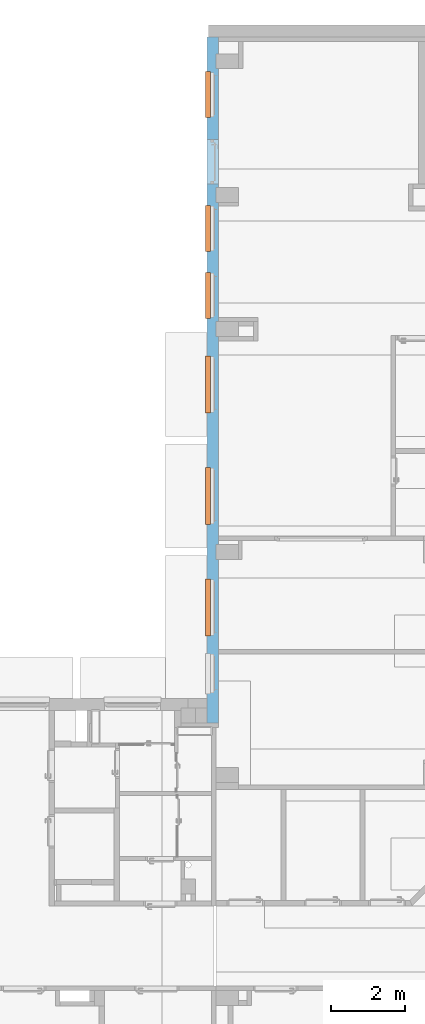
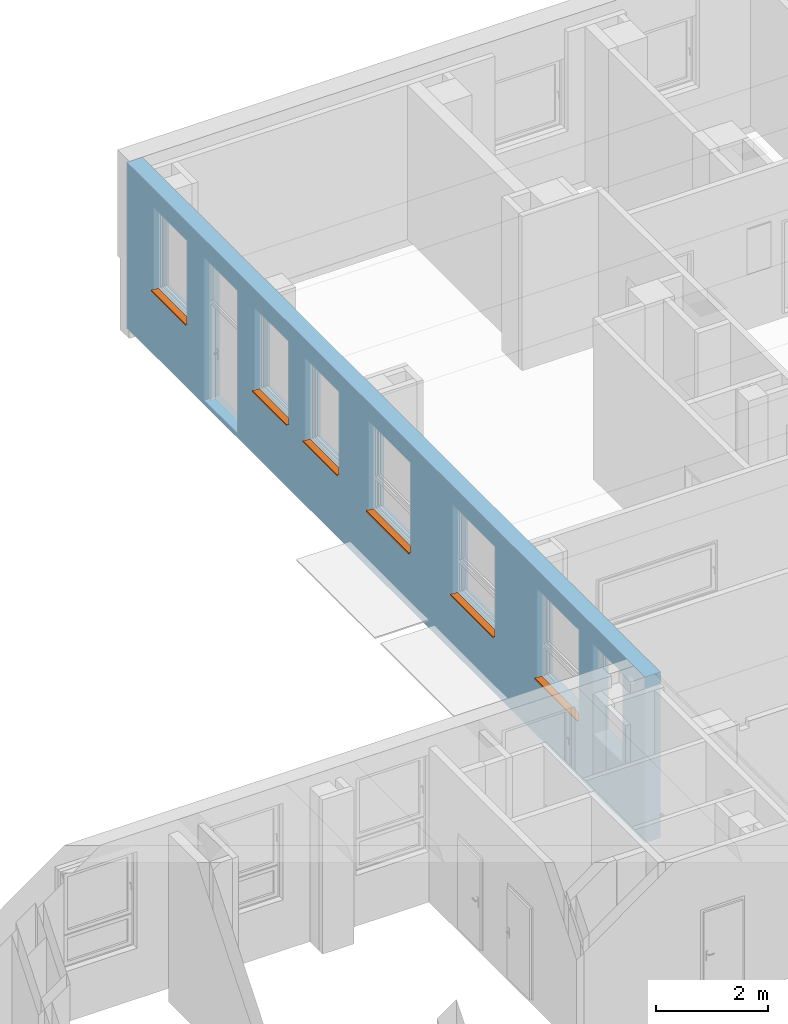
# One storey, part 92 of 140: 6 proxies, 9 openings, plus 1 element that does not belong to this part.
"""IFC4 building model written with IfcOpenShell, lengths in metres."""

import ifcopenshell
import ifcopenshell.guid

model = None  # the IFC model being written
_history = None  # IfcOwnerHistory: only IFC2X3 demands one
_inside = {}  # id of a spatial element -> (the spatial element, [elements in it])
_under = {}  # id of a project, library or spatial element -> (it, [spatial elements below it])
_declared = {}  # id of a project -> (the project, [libraries it declares])
_typed = {}  # id of a type object -> (the type object, [elements of that type])
_made_of = {}  # id of a material, layer set ... -> (it, [elements and type objects made of it])


def new_model(schema):
    """Start an empty IFC model of exactly this schema.

    Asked for "IFC4X3", IfcOpenShell would pick the latest addendum, in which some entities
    have other attributes; the version numbers below select the first issue.
    IFC2X3 requires an IfcOwnerHistory on every rooted entity: one is made here for all.
    """
    global model, _history
    if schema == "IFC4X3":
        model = ifcopenshell.file(schema_version=(4, 3, 0, 0))
    else:
        model = ifcopenshell.file(schema=schema)
    _inside.clear()
    _under.clear()
    _declared.clear()
    _typed.clear()
    _made_of.clear()
    _history = None
    if model.schema == "IFC2X3":
        org = make("IfcOrganization", Name="unknown")
        user = make(
            "IfcPersonAndOrganization",
            ThePerson=make("IfcPerson", FamilyName="unknown"),
            TheOrganization=org,
        )
        app = make(
            "IfcApplication",
            ApplicationDeveloper=org,
            Version="unknown",
            ApplicationFullName="unknown",
            ApplicationIdentifier="unknown",
        )
        _history = make(
            "IfcOwnerHistory",
            OwningUser=user,
            OwningApplication=app,
            ChangeAction="ADDED",
            CreationDate=0,
        )
    return model


def make(cls, **values):
    """One entity of the class cls with the attributes given. An attribute that is None is left unset."""
    return model.create_entity(
        cls, **{name: value for name, value in values.items() if value is not None}
    )


def entity(cls, *values):
    """Any entity or typed value of the class cls, its attributes in the order of the schema. None: left unset."""
    e = model.create_entity(cls)
    for i, value in enumerate(values):
        if value is not None:
            e[i] = value
    return e


def rooted(cls, **values):
    """An entity with a GlobalId (a new one), such as an element, a storey or a relation."""
    return make(cls, GlobalId=ifcopenshell.guid.new(), OwnerHistory=_history, **values)


def si_unit(unit_type, name, prefix=None):
    """IfcSIUnit, for example si_unit("LENGTHUNIT", "METRE", prefix="MILLI")."""
    return make("IfcSIUnit", UnitType=unit_type, Prefix=prefix, Name=name)


def converted_unit(unit_type, name, factor, base, dimensions=None, offset=None):
    """IfcConversionBasedUnit, such as the inch: factor (a typed value) times the base unit."""
    return make(
        "IfcConversionBasedUnit"
        if offset is None
        else "IfcConversionBasedUnitWithOffset",
        ConversionOffset=offset,
        Dimensions=None
        if dimensions is None
        else entity("IfcDimensionalExponents", *dimensions),
        UnitType=unit_type,
        Name=name,
        ConversionFactor=make(
            "IfcMeasureWithUnit", ValueComponent=factor, UnitComponent=base
        ),
    )


def derived_unit(unit_type, elements):
    """IfcDerivedUnit: a product of units, each with its exponent."""
    return make(
        "IfcDerivedUnit",
        Elements=[
            make("IfcDerivedUnitElement", Unit=unit, Exponent=power)
            for unit, power in elements
        ],
        UnitType=unit_type,
    )


def assignment(units):
    """IfcUnitAssignment: the units of a project."""
    return None if units is None else make("IfcUnitAssignment", Units=units)


def point(xyz):
    """IfcCartesianPoint."""
    return None if xyz is None else make("IfcCartesianPoint", Coordinates=xyz)


def direction(xyz):
    """IfcDirection."""
    return None if xyz is None else make("IfcDirection", DirectionRatios=xyz)


def frame(location, z_axis=None, x_axis=None):
    """IfcAxis2Placement3D, a coordinate frame: its origin and axes. An axis left out is left unset."""
    return make(
        "IfcAxis2Placement3D",
        Location=point(location),
        Axis=direction(z_axis),
        RefDirection=direction(x_axis),
    )


def frame_2d(location, x_axis=None):
    """IfcAxis2Placement2D, a coordinate frame in the plane: its origin and x axis."""
    return make(
        "IfcAxis2Placement2D", Location=point(location), RefDirection=direction(x_axis)
    )


def origin():
    """The frame at (0, 0, 0) with its axes left unset."""
    return frame((0.0, 0.0, 0.0))


def origin_with_axes():
    """The frame at (0, 0, 0) with the z axis (0, 0, 1) and the x axis (1, 0, 0) written out."""
    return frame((0.0, 0.0, 0.0), z_axis=(0.0, 0.0, 1.0), x_axis=(1.0, 0.0, 0.0))


def place(relative_to, where):
    """IfcLocalPlacement: puts the frame where relative to a parent placement (None: the world)."""
    return make(
        "IfcLocalPlacement", PlacementRelTo=relative_to, RelativePlacement=where
    )


def context(
    kind, dimensions, precision=None, world=None, true_north=None, identifier=None
):
    """IfcGeometricRepresentationContext, for example the 3D "Model" context."""
    return make(
        "IfcGeometricRepresentationContext",
        ContextIdentifier=identifier,
        ContextType=kind,
        CoordinateSpaceDimension=dimensions,
        Precision=precision,
        WorldCoordinateSystem=world,
        TrueNorth=true_north,
    )


def subcontext(parent, identifier, kind, view, scale=None):
    """IfcGeometricRepresentationSubContext, for example "Body" below "Model"."""
    return make(
        "IfcGeometricRepresentationSubContext",
        ContextIdentifier=identifier,
        ContextType=kind,
        ParentContext=parent,
        TargetScale=scale,
        TargetView=view,
    )


def project(units=None, contexts=None):
    """IfcProject with its units and contexts."""
    return rooted(
        "IfcProject",
        Name="project",
        RepresentationContexts=contexts,
        UnitsInContext=assignment(units),
    )


def spatial(cls, under=None, at=None, **own):
    """A site, building, storey or space (cls), placed at a placement, below another one or the project."""
    s = rooted(cls, ObjectPlacement=at, **own)
    if under is not None:
        _under.setdefault(under.id(), (under, []))[1].append(s)
    return s


def polyline(points):
    """IfcPolyline through the points."""
    return make("IfcPolyline", Points=[point(p) for p in points])


def profile(cls, at=None, kind="AREA", **sizes):
    """A parametric profile (cls). Its sizes go by their IFC names, for example OverallWidth=200.0."""
    return make(cls, ProfileType=kind, Position=at, **sizes)


def rectangle(**sizes):
    """IfcRectangleProfileDef."""
    return profile("IfcRectangleProfileDef", **sizes)


def outline(outer, holes=None, kind="AREA"):
    """IfcArbitraryClosedProfileDef: a profile drawn as a closed curve; with holes, ...WithVoids."""
    if holes is None:
        return make("IfcArbitraryClosedProfileDef", ProfileType=kind, OuterCurve=outer)
    return make(
        "IfcArbitraryProfileDefWithVoids",
        ProfileType=kind,
        OuterCurve=outer,
        InnerCurves=holes,
    )


def extrude(swept, where, along, depth):
    """IfcExtrudedAreaSolid: the profile swept, set in the frame where, extruded along a direction by depth."""
    return make(
        "IfcExtrudedAreaSolid",
        SweptArea=swept,
        Position=where,
        ExtrudedDirection=direction(along),
        Depth=depth,
    )


def clip(a, b, op="DIFFERENCE"):
    """IfcBooleanClippingResult: the solid a cut by the half space b."""
    return make(
        "IfcBooleanClippingResult", Operator=op, FirstOperand=a, SecondOperand=b
    )


def bounded_halfspace(plane, agree, where, boundary):
    """IfcPolygonalBoundedHalfSpace: a half space limited to a polygon's prism."""
    return make(
        "IfcPolygonalBoundedHalfSpace",
        BaseSurface=make("IfcPlane", Position=plane),
        AgreementFlag=agree,
        Position=where,
        PolygonalBoundary=boundary,
    )


def faces_of(points, faces, orient=None, outer=None):
    """IfcFace entities. A face is a list of loops; a loop is a list of indices into points, from 0.

    orient and outer hold one flag for each loop. By default every Orientation is true, the
    first loop of a face is its IfcFaceOuterBound and the others are IfcFaceBound.
    """
    made = []
    for i, loops in enumerate(faces):
        bounds = []
        for j, loop in enumerate(loops):
            is_outer = j == 0 if outer is None else outer[i][j]
            bounds.append(
                make(
                    "IfcFaceOuterBound" if is_outer else "IfcFaceBound",
                    Bound=make("IfcPolyLoop", Polygon=[points[k] for k in loop]),
                    Orientation=True if orient is None else orient[i][j],
                )
            )
        made.append(make("IfcFace", Bounds=bounds))
    return made


def faceted_brep(points, faces, orient=None, outer=None, voids=None):
    """IfcFacetedBrep: a solid bounded by flat faces; with voids (closed shells), ...WithVoids."""
    shared = [point(p) for p in points]
    hull = make("IfcClosedShell", CfsFaces=faces_of(shared, faces, orient, outer))
    if voids is None:
        return make("IfcFacetedBrep", Outer=hull)
    return make(
        "IfcFacetedBrepWithVoids",
        Outer=hull,
        Voids=[
            make(cls, CfsFaces=faces_of(shared, fs, o, b)) for cls, fs, o, b in voids
        ],
    )


def shape(context_of_items, identifier, shape_type, items):
    """IfcShapeRepresentation: the items that make up one representation, for example the "Body"."""
    return make(
        "IfcShapeRepresentation",
        ContextOfItems=context_of_items,
        RepresentationIdentifier=identifier,
        RepresentationType=shape_type,
        Items=items,
    )


def source(mapping_origin, context_of_items, identifier, shape_type, items):
    """IfcRepresentationMap: a shape defined once, which mapped items show again and again."""
    return make(
        "IfcRepresentationMap",
        MappingOrigin=mapping_origin,
        MappedRepresentation=shape(context_of_items, identifier, shape_type, items),
    )


def transform(
    local_origin,
    x_axis=None,
    y_axis=None,
    z_axis=None,
    scale=None,
    scale2=None,
    scale3=None,
    uniform=True,
):
    """IfcCartesianTransformationOperator3D, or its non-uniform kind. x_axis, y_axis, z_axis: its Axis1, 2, 3."""
    if uniform:
        return make(
            "IfcCartesianTransformationOperator3D",
            Axis1=direction(x_axis),
            Axis2=direction(y_axis),
            LocalOrigin=point(local_origin),
            Scale=scale,
            Axis3=direction(z_axis),
        )
    return make(
        "IfcCartesianTransformationOperator3DnonUniform",
        Axis1=direction(x_axis),
        Axis2=direction(y_axis),
        LocalOrigin=point(local_origin),
        Scale=scale,
        Axis3=direction(z_axis),
        Scale2=scale2,
        Scale3=scale3,
    )


def mapped(mapping_source, mapping_target):
    """IfcMappedItem: shows the shape of a source again, moved by a transform."""
    return make(
        "IfcMappedItem", MappingSource=mapping_source, MappingTarget=mapping_target
    )


def material(Name=None, Category=None):
    """IfcMaterial."""
    return make("IfcMaterial", Name=Name, Category=Category)


def layer(
    of_material, thickness, ventilated=None, Name=None, Category=None, Priority=None
):
    """IfcMaterialLayer: one layer of a wall or slab, of a material (None: an air gap)."""
    return make(
        "IfcMaterialLayer",
        Material=of_material,
        LayerThickness=thickness,
        IsVentilated=ventilated,
        Name=Name,
        Category=Category,
        Priority=Priority,
    )


def layer_set(layers, Name=None):
    """IfcMaterialLayerSet."""
    return make("IfcMaterialLayerSet", MaterialLayers=layers, LayerSetName=Name)


def layer_usage(for_layer_set, set_direction, sense, offset, extent=None):
    """IfcMaterialLayerSetUsage: how a layer set lies in its element."""
    return make(
        "IfcMaterialLayerSetUsage",
        ForLayerSet=for_layer_set,
        LayerSetDirection=set_direction,
        DirectionSense=sense,
        OffsetFromReferenceLine=offset,
        ReferenceExtent=extent,
    )


def made_of(thing, what):
    """Note that an element or type object is made of a material, layer set ...; save() writes the relation."""
    if what is not None:
        _made_of.setdefault(what.id(), (what, []))[1].append(thing)
    return thing


def element(
    cls,
    number,
    at=None,
    inside=None,
    cuts=None,
    type_object=None,
    material=None,
    context=None,
    identifier="Body",
    shape_type=None,
    held_by="IfcProductDefinitionShape",
    body=None,
    shapes=None,
    **own,
):
    """One element of the class cls, such as IfcWall. Its Tag is "e" and its number.

    at: its placement. inside: the storey or other place that contains it. cuts: it is an
    opening in that element (IfcRelVoidsElement). A single representation is given by context,
    identifier, shape_type and body (its items); several are given by shapes. held_by: the class
    of the entity that holds the representations. save() writes the other relations.
    """
    e = rooted(cls, Tag="e%d" % number, ObjectPlacement=at, **own)
    if body is not None:
        shapes = [shape(context, identifier, shape_type, body)]
    if shapes is not None:
        e.Representation = make(held_by, Representations=shapes)
    if inside is not None:
        _inside.setdefault(inside.id(), (inside, []))[1].append(e)
    if cuts is not None:
        rooted(
            "IfcRelVoidsElement", RelatingBuildingElement=cuts, RelatedOpeningElement=e
        )
    if type_object is not None:
        _typed.setdefault(type_object.id(), (type_object, []))[1].append(e)
    return made_of(e, material)


def fill(opening, filler):
    """IfcRelFillsElement: the door or window that sits in an opening."""
    return rooted(
        "IfcRelFillsElement",
        RelatingOpeningElement=opening,
        RelatedBuildingElement=filler,
    )


def aggregate(whole, parts):
    """IfcRelAggregates: a whole, such as a stair, and the parts it consists of."""
    return rooted("IfcRelAggregates", RelatingObject=whole, RelatedObjects=parts)


def save(model, path):
    """Write the relations noted so far, then the file.

    IfcRelAggregates (storeys below a building ...), IfcRelContainedInSpatialStructure (elements
    in a storey), IfcRelDefinesByType, IfcRelAssociatesMaterial and IfcRelDeclares: one each for
    every whole, place, type object, material and project.
    """
    for whole, parts in _under.values():
        aggregate(whole, parts)
    for where, things in _inside.values():
        rooted(
            "IfcRelContainedInSpatialStructure",
            RelatedElements=things,
            RelatingStructure=where,
        )
    for kind, things in _typed.values():
        rooted("IfcRelDefinesByType", RelatedObjects=things, RelatingType=kind)
    for what, things in _made_of.values():
        rooted("IfcRelAssociatesMaterial", RelatedObjects=things, RelatingMaterial=what)
    for by, libraries in _declared.values():
        rooted("IfcRelDeclares", RelatingContext=by, RelatedDefinitions=libraries)
    model.write(path)


model = new_model("IFC4")

# Units and contexts
model_context = context("Model", 3, precision=1e-05, world=origin())
body_context = subcontext(model_context, "Body", "Model", "MODEL_VIEW")
ifc_project = project(units=[si_unit("LENGTHUNIT", "METRE"), si_unit("AREAUNIT", "SQUARE_METRE"), si_unit("VOLUMEUNIT", "CUBIC_METRE"), si_unit("MASSUNIT", "GRAM", prefix="KILO"), converted_unit("PLANEANGLEUNIT", "DEGREE", entity("IfcPlaneAngleMeasure", 0.0174532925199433), si_unit("PLANEANGLEUNIT", "RADIAN"), dimensions=[0, 0, 0, 0, 0, 0, 0]), derived_unit("THERMALTRANSMITTANCEUNIT", [(si_unit("POWERUNIT", "WATT"), 1), (si_unit("THERMODYNAMICTEMPERATUREUNIT", "KELVIN"), -1), (si_unit("LENGTHUNIT", "METRE"), -2)]), derived_unit("VOLUMETRICFLOWRATEUNIT", [(si_unit("LENGTHUNIT", "METRE"), 3), (converted_unit("TIMEUNIT", "hour", entity("IfcTimeMeasure", 3600.0), si_unit("TIMEUNIT", "SECOND"), dimensions=[0, 0, 1, 0, 0, 0, 0]), -1), (si_unit("LENGTHUNIT", "METRE"), -1)])], contexts=[model_context])

# Site, building, storey
site_placement = place(None, origin())
site = spatial("IfcSite", under=ifc_project, at=site_placement, Name="3. ASŘ", CompositionType="ELEMENT")
building_placement = place(site_placement, origin())
building = spatial("IfcBuilding", under=site, at=building_placement, Name="Pavilon C", CompositionType="ELEMENT")
storey_placement = place(building_placement, origin())
storey = spatial("IfcBuildingStorey", under=building, at=storey_placement, Name="Půdorys 1.NP", CompositionType="ELEMENT", Elevation=0.0)

# Wall, openings, proxies
ifc_material_1 = material(Name="ZELEZOBETONOVÁ KCE")
ifc_layer = layer(ifc_material_1, 0.32)
ifc_layer_set = layer_set([ifc_layer])
ifc_layer_usage = layer_usage(ifc_layer_set, "AXIS2", "POSITIVE", 0.0)
wall_placement = place(storey_placement, frame((24.5, 33.05, -0.1), z_axis=(0.0, 0.0, 1.0), x_axis=(-1.97180423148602e-16, -1.0, 0.0)))
wall = element("IfcWall", 1, at=wall_placement, inside=storey, material=ifc_layer_usage, Name="ZELEZOBETONOVÁ KCE", context=body_context, shape_type="Clipping", body=[
    clip(clip(clip(clip(extrude(rectangle(XDim=18.45, YDim=0.32, at=frame_2d((9.225, 0.16), x_axis=(1.0, 0.0))), origin_with_axes(), (0.0, 0.0, 1.0), 3.6), bounded_halfspace(frame((0.65, 0.285, 3.35), z_axis=(0.0, 0.0, 1.0), x_axis=(1.97180423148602e-16, -1.0, 0.0)), True, origin_with_axes(), polyline([(0.45, 0.32), (0.45, 0.250000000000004), (0.85, 0.250000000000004), (0.85, 0.32), (0.45, 0.32)]))), bounded_halfspace(frame((4.25, 0.285000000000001, 3.35), z_axis=(0.0, 0.0, 1.0), x_axis=(1.97180423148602e-16, -1.0, 0.0)), True, origin_with_axes(), polyline([(4.05, 0.320000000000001), (4.05, 0.250000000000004), (4.45, 0.250000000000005), (4.45, 0.320000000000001), (4.05, 0.320000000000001)]))), bounded_halfspace(frame((7.85, 0.285000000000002, 3.35), z_axis=(0.0, 0.0, 1.0), x_axis=(1.97180423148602e-16, -1.0, 0.0)), True, origin_with_axes(), polyline([(7.65, 0.320000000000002), (7.65, 0.250000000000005), (8.05, 0.250000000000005), (8.05, 0.320000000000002), (7.65, 0.320000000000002)]))), bounded_halfspace(frame((13.85, 0.285000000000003, 3.35), z_axis=(0.0, 0.0, 1.0), x_axis=(1.97180423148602e-16, -1.0, 0.0)), True, origin_with_axes(), polyline([(13.65, 0.320000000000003), (13.65, 0.250000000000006), (14.05, 0.250000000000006), (14.05, 0.320000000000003), (13.65, 0.320000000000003)]))),
])
opening_1_placement = place(wall_placement, frame((18.3295933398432, 0.32, 3.15000000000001), z_axis=(-0.642787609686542, -0.766044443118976, 0.0), x_axis=(0.0, 0.0, 1.0)))
element("IfcOpeningElement", 2, at=opening_1_placement, cuts=wall, Name="CHL", ObjectType="Opening", context=body_context, shape_type="SweptSolid", body=[
    extrude(outline(polyline([(0.0999999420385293, 0.0), (0.0895470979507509, 0.000547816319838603), (0.0792087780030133, 0.00218525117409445), (0.0690982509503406, 0.00489436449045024), (0.059326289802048, 0.00864547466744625), (0.0499999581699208, 0.0133974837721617), (0.0412214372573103, 0.0190983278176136), (0.0330869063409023, 0.0256855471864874), (0.0256854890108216, 0.0330869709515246), (0.0190982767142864, 0.041221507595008), (0.0133974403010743, 0.0500000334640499), (0.00864543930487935, 0.0593263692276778), (0.0048943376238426, 0.0690983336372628), (0.00218523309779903, 0.0792088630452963), (0.000547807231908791, 0.0895471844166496), (0.0, 0.10000002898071), (0.000547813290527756, 0.110452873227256), (0.00218524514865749, 0.120791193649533), (0.00489435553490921, 0.130901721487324), (0.00864546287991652, 0.140673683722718), (0.0133974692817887, 0.150000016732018), (0.0190983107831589, 0.158778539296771), (0.0256855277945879, 0.166913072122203), (0.0330869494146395, 0.174314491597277), (0.0412214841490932, 0.180901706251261), (0.0500000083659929, 0.186602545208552), (0.0593263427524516, 0.191354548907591), (0.06909830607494, 0.195105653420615), (0.0792088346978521, 0.197814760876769), (0.0895471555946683, 0.199452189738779), (0.0999999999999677, 0.2), (0.110452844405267, 0.199452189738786), (0.120791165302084, 0.197814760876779), (0.130901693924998, 0.195105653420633), (0.140673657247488, 0.191354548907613), (0.14999999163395, 0.186602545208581), (0.158778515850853, 0.180901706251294), (0.16691305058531, 0.174314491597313), (0.174314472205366, 0.166913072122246), (0.180901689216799, 0.158778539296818), (0.186602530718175, 0.150000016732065), (0.191354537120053, 0.140673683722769), (0.195105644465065, 0.130901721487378), (0.197814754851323, 0.120791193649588), (0.199452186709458, 0.11045287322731), (0.199999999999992, 0.100000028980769), (0.199452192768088, 0.0895471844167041), (0.197814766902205, 0.0792088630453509), (0.195105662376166, 0.0690983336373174), (0.191354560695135, 0.0593263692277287), (0.186602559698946, 0.0500000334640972), (0.180901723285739, 0.0412215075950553), (0.174314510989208, 0.0330869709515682), (0.166913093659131, 0.0256855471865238), (0.158778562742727, 0.0190983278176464), (0.15000004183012, 0.0133974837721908), (0.140673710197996, 0.00864547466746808), (0.130901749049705, 0.00489436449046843), (0.120791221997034, 0.00218525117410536), (0.110452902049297, 0.000547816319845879), (0.0999999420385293, 0.0)])), origin_with_axes(), (0.0, 0.0, 1.0), 0.952730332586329),
])
opening_2_placement = place(wall_placement, frame((14.6, -7.5914462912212e-16, 1.25), z_axis=(0.0, 1.0, 0.0), x_axis=(0.0, 0.0, 1.0)))
opening_2 = element("IfcOpeningElement", 3, at=opening_2_placement, cuts=wall, Name="Okenní otvor", ObjectType="Opening", context=body_context, shape_type="SweptSolid", body=[
    extrude(outline(polyline([(0.0, 1.5), (1.95, 1.5), (1.95, 0.0), (0.0, 0.0), (0.0, 1.5)])), origin_with_axes(), (0.0, 0.0, 1.0), 0.32),
])
opening_3_placement = place(wall_placement, frame((11.6, -1.35068589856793e-15, 1.25), z_axis=(0.0, 1.0, 0.0), x_axis=(0.0, 0.0, 1.0)))
opening_3 = element("IfcOpeningElement", 4, at=opening_3_placement, cuts=wall, Name="Okenní otvor", ObjectType="Opening", context=body_context, shape_type="SweptSolid", body=[
    extrude(outline(polyline([(0.0, 1.5), (1.95, 1.5), (1.95, 0.0), (0.0, 0.0), (0.0, 1.5)])), origin_with_axes(), (0.0, 0.0, 1.0), 0.32),
])
opening_4_placement = place(wall_placement, frame((8.6, -1.94222716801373e-15, 1.25), z_axis=(0.0, 1.0, 0.0), x_axis=(0.0, 0.0, 1.0)))
opening_4 = element("IfcOpeningElement", 5, at=opening_4_placement, cuts=wall, Name="Okenní otvor", ObjectType="Opening", context=body_context, shape_type="SweptSolid", body=[
    extrude(outline(polyline([(0.0, 1.5), (1.95, 1.5), (1.95, 0.0), (0.0, 0.0), (0.0, 1.5)])), origin_with_axes(), (0.0, 0.0, 1.0), 0.320000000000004),
])
opening_5_placement = place(wall_placement, frame((6.35, 1.25209568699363e-15, 1.4), z_axis=(0.0, 1.0, 0.0), x_axis=(0.0, 0.0, 1.0)))
opening_5 = element("IfcOpeningElement", 6, at=opening_5_placement, cuts=wall, Name="Okenní otvor", ObjectType="Opening", context=body_context, shape_type="SweptSolid", body=[
    extrude(outline(polyline([(0.0, 1.2), (1.8, 1.2), (1.8, 0.0), (0.0, 0.0), (0.0, 1.2)])), origin_with_axes(), (0.0, 0.0, 1.0), 0.32),
])
opening_6_placement = place(wall_placement, frame((4.55000000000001, 8.97170925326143e-16, 1.4), z_axis=(0.0, 1.0, 0.0), x_axis=(0.0, 0.0, 1.0)))
opening_6 = element("IfcOpeningElement", 7, at=opening_6_placement, cuts=wall, Name="Okenní otvor", ObjectType="Opening", context=body_context, shape_type="SweptSolid", body=[
    extrude(outline(polyline([(0.0, 1.2), (1.8, 1.2), (1.8, 0.0), (0.0, 0.0), (0.0, 1.2)])), origin_with_axes(), (0.0, 0.0, 1.0), 0.32),
])
opening_7_placement = place(wall_placement, frame((0.950000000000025, 1.87321401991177e-16, 1.4), z_axis=(-3.5527136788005e-16, 1.0, 0.0), x_axis=(0.0, 0.0, 1.0)))
opening_7 = element("IfcOpeningElement", 8, at=opening_7_placement, cuts=wall, Name="Okenní otvor", ObjectType="Opening", context=body_context, shape_type="SweptSolid", body=[
    extrude(outline(polyline([(0.0, 1.2), (1.8, 1.2), (1.8, 0.0), (0.0, 0.0), (0.0, 1.2)])), origin_with_axes(), (0.0, 0.0, 1.0), 0.32),
])
opening_8_placement = place(wall_placement, frame((2.75000000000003, 5.42246163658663e-16, 0.1), z_axis=(0.0, 1.0, 0.0), x_axis=(0.0, 0.0, 1.0)))
element("IfcOpeningElement", 9, at=opening_8_placement, cuts=wall, Name="Dveřní otvor", ObjectType="Opening", context=body_context, shape_type="SweptSolid", body=[
    extrude(outline(polyline([(0.0, 1.2), (3.1, 1.2), (3.1, 0.0), (0.0, 0.0), (0.0, 1.2)])), origin_with_axes(), (0.0, 0.0, 1.0), 0.32),
])
opening_9_placement = place(wall_placement, frame((16.6, -3.64783782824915e-16, 1.25), z_axis=(0.0, 1.0, 0.0), x_axis=(0.0, 0.0, 1.0)))
element("IfcOpeningElement", 10, at=opening_9_placement, cuts=wall, Name="Okenní otvor", ObjectType="Opening", context=body_context, shape_type="SweptSolid", body=[
    extrude(outline(polyline([(0.0, 1.05), (1.95, 1.05), (1.95, 0.0), (0.0, 0.0), (0.0, 1.05)])), origin_with_axes(), (0.0, 0.0, 1.0), 0.32),
])
ifc_material_2 = material(Name="PLECH")
shared_shape_1 = source(origin_with_axes(), body_context, "Body", "Brep", [
    faceted_brep([(7.27595761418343e-15, -7.27595761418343e-15, 0.0), (7.27595761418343e-15, 0.0999999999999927, 0.0), (7.27595761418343e-15, 0.0999999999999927, 0.005), (7.27595761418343e-15, -7.27595761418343e-15, 0.005), (1.50000000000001, -7.27595761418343e-15, 0.0), (1.50000000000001, -7.27595761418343e-15, 0.005), (1.50000000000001, 0.0999999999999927, 0.005), (1.50000000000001, 0.0999999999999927, 0.0), (-0.0199999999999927, -7.27595761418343e-15, 0.0), (-0.0199999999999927, -0.0350000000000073, 0.0), (1.52000000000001, -0.0350000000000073, 0.0), (1.52000000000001, -7.27595761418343e-15, 0.0), (1.52000000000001, -7.27595761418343e-15, 0.005), (1.52000000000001, -0.0400000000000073, 0.005), (-0.0199999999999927, -0.0400000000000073, 0.005), (-0.0199999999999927, -7.27595761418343e-15, 0.005), (-0.0199999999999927, -0.0400000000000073, -0.025), (-0.0199999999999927, -0.0350000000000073, -0.025), (1.52000000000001, -0.0350000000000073, -0.025), (1.52000000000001, -0.0400000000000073, -0.025)], [[[0, 1, 2, 3]], [[4, 5, 6, 7]], [[1, 0, 8, 9, 10, 11, 4, 7]], [[2, 1, 7, 6]], [[3, 2, 6, 5, 12, 13, 14, 15]], [[8, 15, 14, 16, 17, 9]], [[11, 10, 18, 19, 13, 12]], [[15, 8, 0, 3]], [[5, 4, 11, 12]], [[16, 14, 13, 19]], [[17, 16, 19, 18]], [[9, 17, 18, 10]]], orient=[[False], [False], [False], [False], [False], [False], [False], [False], [False], [False], [False], [False]]),
    faceted_brep([(-0.0199999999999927, -7.27595761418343e-15, 0.0), (-0.0199999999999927, 0.0999999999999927, 0.0), (-0.0199999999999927, 0.0999999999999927, 0.005), (-0.0199999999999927, -7.27595761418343e-15, 0.005), (7.27595761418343e-15, -7.27595761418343e-15, 0.0), (7.27595761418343e-15, -7.27595761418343e-15, 0.005), (7.27595761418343e-15, 0.0999999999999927, 0.005), (7.27595761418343e-15, 0.0999999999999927, 0.0)], [[[0, 1, 2, 3]], [[4, 5, 6, 7]], [[1, 0, 4, 7]], [[2, 1, 7, 6]], [[3, 2, 6, 5]], [[0, 3, 5, 4]]], orient=[[False], [False], [False], [False], [False], [False]]),
    faceted_brep([(1.50000000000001, -7.27595761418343e-15, 0.0), (1.50000000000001, 0.0999999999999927, 0.0), (1.50000000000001, 0.0999999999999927, 0.005), (1.50000000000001, -7.27595761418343e-15, 0.005), (1.52000000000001, -7.27595761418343e-15, 0.0), (1.52000000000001, -7.27595761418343e-15, 0.005), (1.52000000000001, 0.0999999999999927, 0.005), (1.52000000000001, 0.0999999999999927, 0.0)], [[[0, 1, 2, 3]], [[4, 5, 6, 7]], [[1, 0, 4, 7]], [[2, 1, 7, 6]], [[3, 2, 6, 5]], [[0, 3, 5, 4]]], orient=[[False], [False], [False], [False], [False], [False]]),
])
proxy_1_placement = place(opening_2_placement, frame((0.0, 0.0, 0.0), z_axis=(1.0, 0.0, 0.0), x_axis=(0.0, 1.0, 0.0)))
proxy_1 = element("IfcBuildingElementProxy", 11, at=proxy_1_placement, inside=storey, material=ifc_material_2, Name="Parapet vnější", context=body_context, shape_type="MappedRepresentation", body=[
    mapped(shared_shape_1, transform((0.0, 0.0, 0.0), x_axis=(1.0, 0.0, 0.0), y_axis=(0.0, 1.0, 0.0), z_axis=(0.0, 0.0, 1.0), scale=1.0)),
])
fill(opening_2, proxy_1)
ifc_material_3 = material(Name="PLECH")
shared_shape_2 = source(origin_with_axes(), body_context, "Body", "Brep", [
    faceted_brep([(7.27595761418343e-15, -7.27595761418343e-15, 0.0), (7.27595761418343e-15, 0.0999999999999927, 0.0), (7.27595761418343e-15, 0.0999999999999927, 0.005), (7.27595761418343e-15, -7.27595761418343e-15, 0.005), (1.50000000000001, -7.27595761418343e-15, 0.0), (1.50000000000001, -7.27595761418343e-15, 0.005), (1.50000000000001, 0.0999999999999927, 0.005), (1.50000000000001, 0.0999999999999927, 0.0), (-0.0199999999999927, -7.27595761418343e-15, 0.0), (-0.0199999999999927, -0.0350000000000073, 0.0), (1.52000000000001, -0.0350000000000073, 0.0), (1.52000000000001, -7.27595761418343e-15, 0.0), (1.52000000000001, -7.27595761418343e-15, 0.005), (1.52000000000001, -0.0400000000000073, 0.005), (-0.0199999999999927, -0.0400000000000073, 0.005), (-0.0199999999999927, -7.27595761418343e-15, 0.005), (-0.0199999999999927, -0.0400000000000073, -0.025), (-0.0199999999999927, -0.0350000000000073, -0.025), (1.52000000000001, -0.0350000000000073, -0.025), (1.52000000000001, -0.0400000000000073, -0.025)], [[[0, 1, 2, 3]], [[4, 5, 6, 7]], [[1, 0, 8, 9, 10, 11, 4, 7]], [[2, 1, 7, 6]], [[3, 2, 6, 5, 12, 13, 14, 15]], [[8, 15, 14, 16, 17, 9]], [[11, 10, 18, 19, 13, 12]], [[15, 8, 0, 3]], [[5, 4, 11, 12]], [[16, 14, 13, 19]], [[17, 16, 19, 18]], [[9, 17, 18, 10]]], orient=[[False], [False], [False], [False], [False], [False], [False], [False], [False], [False], [False], [False]]),
    faceted_brep([(-0.0199999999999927, -7.27595761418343e-15, 0.0), (-0.0199999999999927, 0.0999999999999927, 0.0), (-0.0199999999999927, 0.0999999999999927, 0.005), (-0.0199999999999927, -7.27595761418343e-15, 0.005), (7.27595761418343e-15, -7.27595761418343e-15, 0.0), (7.27595761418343e-15, -7.27595761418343e-15, 0.005), (7.27595761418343e-15, 0.0999999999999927, 0.005), (7.27595761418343e-15, 0.0999999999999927, 0.0)], [[[0, 1, 2, 3]], [[4, 5, 6, 7]], [[1, 0, 4, 7]], [[2, 1, 7, 6]], [[3, 2, 6, 5]], [[0, 3, 5, 4]]], orient=[[False], [False], [False], [False], [False], [False]]),
    faceted_brep([(1.50000000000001, -7.27595761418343e-15, 0.0), (1.50000000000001, 0.0999999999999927, 0.0), (1.50000000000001, 0.0999999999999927, 0.005), (1.50000000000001, -7.27595761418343e-15, 0.005), (1.52000000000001, -7.27595761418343e-15, 0.0), (1.52000000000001, -7.27595761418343e-15, 0.005), (1.52000000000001, 0.0999999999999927, 0.005), (1.52000000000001, 0.0999999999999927, 0.0)], [[[0, 1, 2, 3]], [[4, 5, 6, 7]], [[1, 0, 4, 7]], [[2, 1, 7, 6]], [[3, 2, 6, 5]], [[0, 3, 5, 4]]], orient=[[False], [False], [False], [False], [False], [False]]),
])
proxy_2_placement = place(opening_3_placement, frame((0.0, 0.0, 0.0), z_axis=(1.0, 0.0, 0.0), x_axis=(0.0, 1.0, 0.0)))
proxy_2 = element("IfcBuildingElementProxy", 12, at=proxy_2_placement, inside=storey, material=ifc_material_3, Name="Parapet vnější", context=body_context, shape_type="MappedRepresentation", body=[
    mapped(shared_shape_2, transform((0.0, 0.0, 0.0), x_axis=(1.0, 0.0, 0.0), y_axis=(0.0, 1.0, 0.0), z_axis=(0.0, 0.0, 1.0), scale=1.0)),
])
fill(opening_3, proxy_2)
ifc_material_4 = material(Name="PLECH")
shared_shape_3 = source(origin_with_axes(), body_context, "Body", "Brep", [
    faceted_brep([(7.27595761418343e-15, -7.27595761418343e-15, 0.0), (7.27595761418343e-15, 0.0999999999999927, 0.0), (7.27595761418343e-15, 0.0999999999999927, 0.005), (7.27595761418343e-15, -7.27595761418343e-15, 0.005), (1.50000000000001, -7.27595761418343e-15, 0.0), (1.50000000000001, -7.27595761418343e-15, 0.005), (1.50000000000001, 0.0999999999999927, 0.005), (1.50000000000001, 0.0999999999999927, 0.0), (-0.0199999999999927, -7.27595761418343e-15, 0.0), (-0.0199999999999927, -0.0350000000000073, 0.0), (1.52000000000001, -0.0350000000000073, 0.0), (1.52000000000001, -7.27595761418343e-15, 0.0), (1.52000000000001, -7.27595761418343e-15, 0.005), (1.52000000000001, -0.0400000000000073, 0.005), (-0.0199999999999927, -0.0400000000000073, 0.005), (-0.0199999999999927, -7.27595761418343e-15, 0.005), (-0.0199999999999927, -0.0400000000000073, -0.025), (-0.0199999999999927, -0.0350000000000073, -0.025), (1.52000000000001, -0.0350000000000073, -0.025), (1.52000000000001, -0.0400000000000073, -0.025)], [[[0, 1, 2, 3]], [[4, 5, 6, 7]], [[1, 0, 8, 9, 10, 11, 4, 7]], [[2, 1, 7, 6]], [[3, 2, 6, 5, 12, 13, 14, 15]], [[8, 15, 14, 16, 17, 9]], [[11, 10, 18, 19, 13, 12]], [[15, 8, 0, 3]], [[5, 4, 11, 12]], [[16, 14, 13, 19]], [[17, 16, 19, 18]], [[9, 17, 18, 10]]], orient=[[False], [False], [False], [False], [False], [False], [False], [False], [False], [False], [False], [False]]),
    faceted_brep([(-0.0199999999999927, -7.27595761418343e-15, 0.0), (-0.0199999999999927, 0.0999999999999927, 0.0), (-0.0199999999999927, 0.0999999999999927, 0.005), (-0.0199999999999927, -7.27595761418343e-15, 0.005), (7.27595761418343e-15, -7.27595761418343e-15, 0.0), (7.27595761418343e-15, -7.27595761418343e-15, 0.005), (7.27595761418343e-15, 0.0999999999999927, 0.005), (7.27595761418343e-15, 0.0999999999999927, 0.0)], [[[0, 1, 2, 3]], [[4, 5, 6, 7]], [[1, 0, 4, 7]], [[2, 1, 7, 6]], [[3, 2, 6, 5]], [[0, 3, 5, 4]]], orient=[[False], [False], [False], [False], [False], [False]]),
    faceted_brep([(1.50000000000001, -7.27595761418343e-15, 0.0), (1.50000000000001, 0.0999999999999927, 0.0), (1.50000000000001, 0.0999999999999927, 0.005), (1.50000000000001, -7.27595761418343e-15, 0.005), (1.52000000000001, -7.27595761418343e-15, 0.0), (1.52000000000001, -7.27595761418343e-15, 0.005), (1.52000000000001, 0.0999999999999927, 0.005), (1.52000000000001, 0.0999999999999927, 0.0)], [[[0, 1, 2, 3]], [[4, 5, 6, 7]], [[1, 0, 4, 7]], [[2, 1, 7, 6]], [[3, 2, 6, 5]], [[0, 3, 5, 4]]], orient=[[False], [False], [False], [False], [False], [False]]),
])
proxy_3_placement = place(opening_4_placement, frame((0.0, 0.0, 0.0), z_axis=(1.0, 0.0, 0.0), x_axis=(0.0, 1.0, 0.0)))
proxy_3 = element("IfcBuildingElementProxy", 13, at=proxy_3_placement, inside=storey, material=ifc_material_4, Name="Parapet vnější", context=body_context, shape_type="MappedRepresentation", body=[
    mapped(shared_shape_3, transform((0.0, 0.0, 0.0), x_axis=(1.0, 0.0, 0.0), y_axis=(0.0, 1.0, 0.0), z_axis=(0.0, 0.0, 1.0), scale=1.0)),
])
fill(opening_4, proxy_3)
ifc_material_5 = material(Name="PLECH")
shared_shape_4 = source(origin_with_axes(), body_context, "Body", "Brep", [
    faceted_brep([(7.27595761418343e-15, -7.27595761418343e-15, 0.0), (7.27595761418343e-15, 0.0999999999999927, 0.0), (7.27595761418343e-15, 0.0999999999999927, 0.005), (7.27595761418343e-15, -7.27595761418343e-15, 0.005), (1.20000000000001, -7.27595761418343e-15, 0.0), (1.20000000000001, -7.27595761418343e-15, 0.005), (1.20000000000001, 0.0999999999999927, 0.005), (1.20000000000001, 0.0999999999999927, 0.0), (-0.0199999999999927, -7.27595761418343e-15, 0.0), (-0.0199999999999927, -0.0350000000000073, 0.0), (1.22000000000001, -0.0350000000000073, 0.0), (1.22000000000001, -7.27595761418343e-15, 0.0), (1.22000000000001, -7.27595761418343e-15, 0.005), (1.22000000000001, -0.0400000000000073, 0.005), (-0.0199999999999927, -0.0400000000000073, 0.005), (-0.0199999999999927, -7.27595761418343e-15, 0.005), (-0.0199999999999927, -0.0400000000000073, -0.025), (-0.0199999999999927, -0.0350000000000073, -0.025), (1.22000000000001, -0.0350000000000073, -0.025), (1.22000000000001, -0.0400000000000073, -0.025)], [[[0, 1, 2, 3]], [[4, 5, 6, 7]], [[1, 0, 8, 9, 10, 11, 4, 7]], [[2, 1, 7, 6]], [[3, 2, 6, 5, 12, 13, 14, 15]], [[8, 15, 14, 16, 17, 9]], [[11, 10, 18, 19, 13, 12]], [[15, 8, 0, 3]], [[5, 4, 11, 12]], [[16, 14, 13, 19]], [[17, 16, 19, 18]], [[9, 17, 18, 10]]], orient=[[False], [False], [False], [False], [False], [False], [False], [False], [False], [False], [False], [False]]),
    faceted_brep([(-0.0199999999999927, -7.27595761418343e-15, 0.0), (-0.0199999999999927, 0.0999999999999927, 0.0), (-0.0199999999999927, 0.0999999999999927, 0.005), (-0.0199999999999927, -7.27595761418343e-15, 0.005), (7.27595761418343e-15, -7.27595761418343e-15, 0.0), (7.27595761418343e-15, -7.27595761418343e-15, 0.005), (7.27595761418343e-15, 0.0999999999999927, 0.005), (7.27595761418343e-15, 0.0999999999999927, 0.0)], [[[0, 1, 2, 3]], [[4, 5, 6, 7]], [[1, 0, 4, 7]], [[2, 1, 7, 6]], [[3, 2, 6, 5]], [[0, 3, 5, 4]]], orient=[[False], [False], [False], [False], [False], [False]]),
    faceted_brep([(1.20000000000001, -7.27595761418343e-15, 0.0), (1.20000000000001, 0.0999999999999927, 0.0), (1.20000000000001, 0.0999999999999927, 0.005), (1.20000000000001, -7.27595761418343e-15, 0.005), (1.22000000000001, -7.27595761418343e-15, 0.0), (1.22000000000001, -7.27595761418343e-15, 0.005), (1.22000000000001, 0.0999999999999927, 0.005), (1.22000000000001, 0.0999999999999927, 0.0)], [[[0, 1, 2, 3]], [[4, 5, 6, 7]], [[1, 0, 4, 7]], [[2, 1, 7, 6]], [[3, 2, 6, 5]], [[0, 3, 5, 4]]], orient=[[False], [False], [False], [False], [False], [False]]),
])
proxy_4_placement = place(opening_5_placement, frame((0.0, 0.0, 0.0), z_axis=(1.0, 0.0, 0.0), x_axis=(0.0, 1.0, 0.0)))
proxy_4 = element("IfcBuildingElementProxy", 14, at=proxy_4_placement, inside=storey, material=ifc_material_5, Name="Parapet vnější", context=body_context, shape_type="MappedRepresentation", body=[
    mapped(shared_shape_4, transform((0.0, 0.0, 0.0), x_axis=(1.0, 0.0, 0.0), y_axis=(0.0, 1.0, 0.0), z_axis=(0.0, 0.0, 1.0), scale=1.0)),
])
fill(opening_5, proxy_4)
ifc_material_6 = material(Name="PLECH")
shared_shape_5 = source(origin_with_axes(), body_context, "Body", "Brep", [
    faceted_brep([(7.27595761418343e-15, -7.27595761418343e-15, 0.0), (7.27595761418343e-15, 0.0999999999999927, 0.0), (7.27595761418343e-15, 0.0999999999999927, 0.005), (7.27595761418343e-15, -7.27595761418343e-15, 0.005), (1.20000000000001, -3.63797880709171e-15, 0.0), (1.20000000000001, -3.63797880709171e-15, 0.005), (1.20000000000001, 0.0999999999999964, 0.005), (1.20000000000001, 0.0999999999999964, 0.0), (-0.0199999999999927, -7.27595761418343e-15, 0.0), (-0.0199999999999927, -0.0350000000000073, 0.0), (1.22000000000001, -0.0350000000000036, 0.0), (1.22000000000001, -3.63797880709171e-15, 0.0), (1.22000000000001, -3.63797880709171e-15, 0.005), (1.22000000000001, -0.0400000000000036, 0.005), (-0.0199999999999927, -0.0400000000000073, 0.005), (-0.0199999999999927, -7.27595761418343e-15, 0.005), (-0.0199999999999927, -0.0400000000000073, -0.025), (-0.0199999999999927, -0.0350000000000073, -0.025), (1.22000000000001, -0.0350000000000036, -0.025), (1.22000000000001, -0.0400000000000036, -0.025)], [[[0, 1, 2, 3]], [[4, 5, 6, 7]], [[1, 0, 8, 9, 10, 11, 4, 7]], [[2, 1, 7, 6]], [[3, 2, 6, 5, 12, 13, 14, 15]], [[8, 15, 14, 16, 17, 9]], [[11, 10, 18, 19, 13, 12]], [[15, 8, 0, 3]], [[5, 4, 11, 12]], [[16, 14, 13, 19]], [[17, 16, 19, 18]], [[9, 17, 18, 10]]], orient=[[False], [False], [False], [False], [False], [False], [False], [False], [False], [False], [False], [False]]),
    faceted_brep([(-0.0199999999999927, -7.27595761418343e-15, 0.0), (-0.0199999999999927, 0.0999999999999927, 0.0), (-0.0199999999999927, 0.0999999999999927, 0.005), (-0.0199999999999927, -7.27595761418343e-15, 0.005), (7.27595761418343e-15, -7.27595761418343e-15, 0.0), (7.27595761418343e-15, -7.27595761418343e-15, 0.005), (7.27595761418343e-15, 0.0999999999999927, 0.005), (7.27595761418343e-15, 0.0999999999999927, 0.0)], [[[0, 1, 2, 3]], [[4, 5, 6, 7]], [[1, 0, 4, 7]], [[2, 1, 7, 6]], [[3, 2, 6, 5]], [[0, 3, 5, 4]]], orient=[[False], [False], [False], [False], [False], [False]]),
    faceted_brep([(1.20000000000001, -3.63797880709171e-15, 0.0), (1.20000000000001, 0.0999999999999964, 0.0), (1.20000000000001, 0.0999999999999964, 0.005), (1.20000000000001, -3.63797880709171e-15, 0.005), (1.22000000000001, -3.63797880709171e-15, 0.0), (1.22000000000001, -3.63797880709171e-15, 0.005), (1.22000000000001, 0.0999999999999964, 0.005), (1.22000000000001, 0.0999999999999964, 0.0)], [[[0, 1, 2, 3]], [[4, 5, 6, 7]], [[1, 0, 4, 7]], [[2, 1, 7, 6]], [[3, 2, 6, 5]], [[0, 3, 5, 4]]], orient=[[False], [False], [False], [False], [False], [False]]),
])
proxy_5_placement = place(opening_6_placement, frame((0.0, 0.0, 0.0), z_axis=(1.0, 0.0, 0.0), x_axis=(0.0, 1.0, 0.0)))
proxy_5 = element("IfcBuildingElementProxy", 15, at=proxy_5_placement, inside=storey, material=ifc_material_6, Name="Parapet vnější", context=body_context, shape_type="MappedRepresentation", body=[
    mapped(shared_shape_5, transform((0.0, 0.0, 0.0), x_axis=(1.0, 0.0, 0.0), y_axis=(0.0, 1.0, 0.0), z_axis=(0.0, 0.0, 1.0), scale=1.0)),
])
fill(opening_6, proxy_5)
ifc_material_7 = material(Name="PLECH")
shared_shape_6 = source(origin_with_axes(), body_context, "Body", "Brep", [
    faceted_brep([(7.27595761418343e-15, -7.27595761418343e-15, 0.0), (7.27595761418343e-15, 0.0999999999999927, 0.0), (7.27595761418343e-15, 0.0999999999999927, 0.005), (7.27595761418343e-15, -7.27595761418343e-15, 0.005), (1.20000000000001, -7.27595761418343e-15, 0.0), (1.20000000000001, -7.27595761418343e-15, 0.005), (1.20000000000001, 0.0999999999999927, 0.005), (1.20000000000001, 0.0999999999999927, 0.0), (-0.0199999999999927, -7.27595761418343e-15, 0.0), (-0.0199999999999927, -0.0350000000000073, 0.0), (1.22000000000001, -0.0350000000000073, 0.0), (1.22000000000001, -7.27595761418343e-15, 0.0), (1.22000000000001, -7.27595761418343e-15, 0.005), (1.22000000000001, -0.0400000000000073, 0.005), (-0.0199999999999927, -0.0400000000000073, 0.005), (-0.0199999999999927, -7.27595761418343e-15, 0.005), (-0.0199999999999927, -0.0400000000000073, -0.025), (-0.0199999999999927, -0.0350000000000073, -0.025), (1.22000000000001, -0.0350000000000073, -0.025), (1.22000000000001, -0.0400000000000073, -0.025)], [[[0, 1, 2, 3]], [[4, 5, 6, 7]], [[1, 0, 8, 9, 10, 11, 4, 7]], [[2, 1, 7, 6]], [[3, 2, 6, 5, 12, 13, 14, 15]], [[8, 15, 14, 16, 17, 9]], [[11, 10, 18, 19, 13, 12]], [[15, 8, 0, 3]], [[5, 4, 11, 12]], [[16, 14, 13, 19]], [[17, 16, 19, 18]], [[9, 17, 18, 10]]], orient=[[False], [False], [False], [False], [False], [False], [False], [False], [False], [False], [False], [False]]),
    faceted_brep([(-0.0199999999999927, -7.27595761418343e-15, 0.0), (-0.0199999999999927, 0.0999999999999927, 0.0), (-0.0199999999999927, 0.0999999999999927, 0.005), (-0.0199999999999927, -7.27595761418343e-15, 0.005), (7.27595761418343e-15, -7.27595761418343e-15, 0.0), (7.27595761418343e-15, -7.27595761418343e-15, 0.005), (7.27595761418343e-15, 0.0999999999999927, 0.005), (7.27595761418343e-15, 0.0999999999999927, 0.0)], [[[0, 1, 2, 3]], [[4, 5, 6, 7]], [[1, 0, 4, 7]], [[2, 1, 7, 6]], [[3, 2, 6, 5]], [[0, 3, 5, 4]]], orient=[[False], [False], [False], [False], [False], [False]]),
    faceted_brep([(1.20000000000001, -7.27595761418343e-15, 0.0), (1.20000000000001, 0.0999999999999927, 0.0), (1.20000000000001, 0.0999999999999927, 0.005), (1.20000000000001, -7.27595761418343e-15, 0.005), (1.22000000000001, -7.27595761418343e-15, 0.0), (1.22000000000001, -7.27595761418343e-15, 0.005), (1.22000000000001, 0.0999999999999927, 0.005), (1.22000000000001, 0.0999999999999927, 0.0)], [[[0, 1, 2, 3]], [[4, 5, 6, 7]], [[1, 0, 4, 7]], [[2, 1, 7, 6]], [[3, 2, 6, 5]], [[0, 3, 5, 4]]], orient=[[False], [False], [False], [False], [False], [False]]),
])
proxy_6_placement = place(opening_7_placement, frame((0.0, 0.0, 0.0), z_axis=(1.0, 0.0, 0.0), x_axis=(0.0, 1.0, 0.0)))
proxy_6 = element("IfcBuildingElementProxy", 16, at=proxy_6_placement, inside=storey, material=ifc_material_7, Name="Parapet vnější", context=body_context, shape_type="MappedRepresentation", body=[
    mapped(shared_shape_6, transform((0.0, 0.0, 0.0), x_axis=(1.0, 0.0, 0.0), y_axis=(0.0, 1.0, 0.0), z_axis=(0.0, 0.0, 1.0), scale=1.0)),
])
fill(opening_7, proxy_6)

save(model, "model.ifc")
